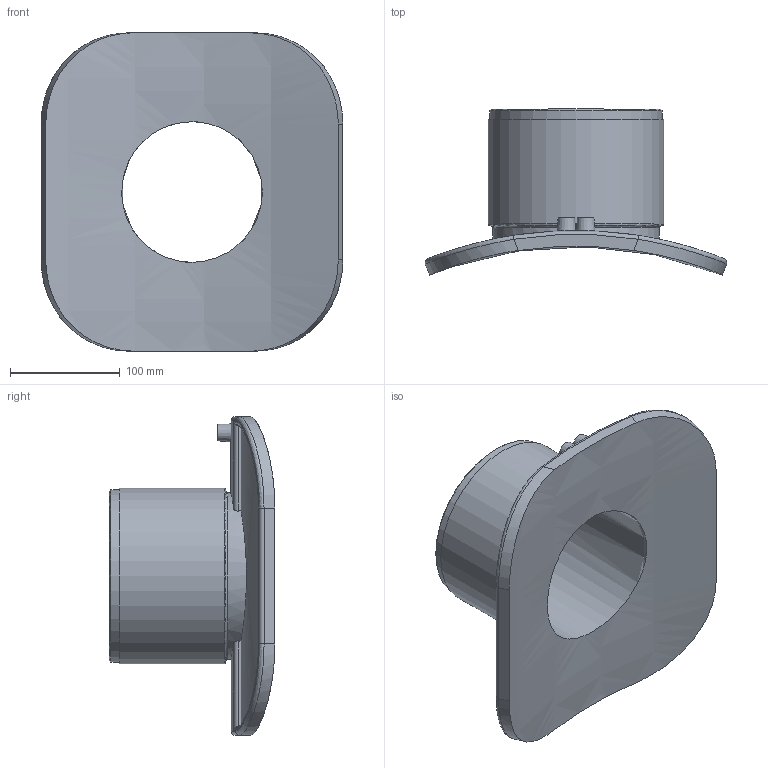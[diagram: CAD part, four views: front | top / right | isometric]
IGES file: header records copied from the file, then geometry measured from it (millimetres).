
Global section: file name: 4758S4710160.ipt; native system: Autodesk Inventor 2015; preprocessor: unknown; author: Кирилл,,11,0; organization: 20170830.202409; date: 20171106.093509; units: millimetre
Bounding box: 274.83 x 150.93 x 290 mm (x, y, z)
Volume: 1418453.3 mm3; surface area: 255135.2 mm2
Topology: 1 solids, 1 shells, 74 faces, 175 edges, 113 vertices
Faces by surface type: cylinder 22, revolution 21, plane 20, bspline 8, cone 3
Full cylindrical faces by diameter (mm): 4 x2, 152 x1, 156.8 x1, 160 x1
